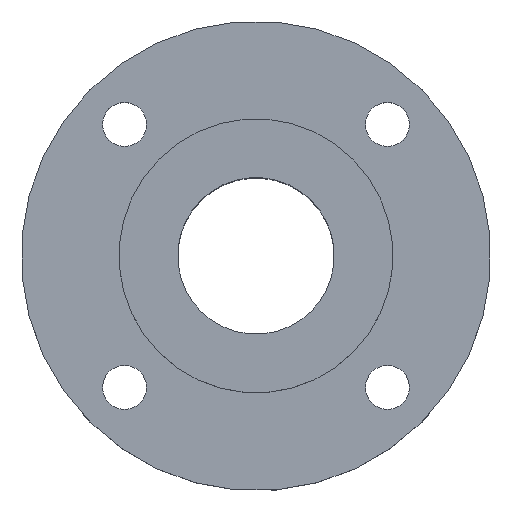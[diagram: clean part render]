
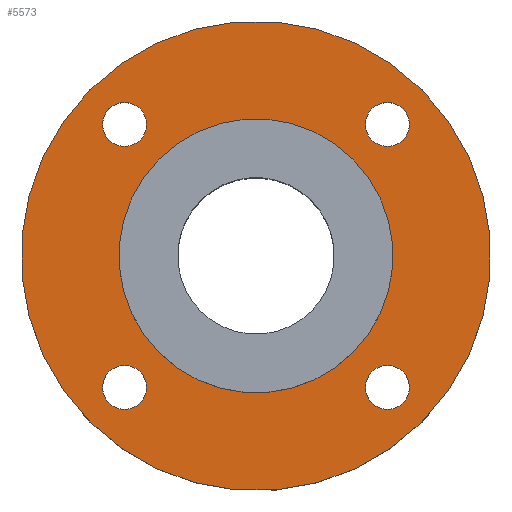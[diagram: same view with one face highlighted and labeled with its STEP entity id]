
A CAD part, top view. The second image highlights one B-rep face of the part: STEP entity #5573.
In plain terms, the highlighted planar face has unit normal (0, 0, 1).
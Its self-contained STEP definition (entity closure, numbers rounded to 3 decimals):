
#114=CIRCLE('',#5928,14.);
#118=CIRCLE('',#5936,24.);
#119=CIRCLE('',#5938,2.25);
#120=CIRCLE('',#5939,2.25);
#121=CIRCLE('',#5940,2.25);
#122=CIRCLE('',#5941,2.25);
#516=ORIENTED_EDGE('',*,*,#2114,.F.);
#517=ORIENTED_EDGE('',*,*,#2115,.F.);
#518=ORIENTED_EDGE('',*,*,#2116,.F.);
#519=ORIENTED_EDGE('',*,*,#2117,.F.);
#520=ORIENTED_EDGE('',*,*,#2109,.T.);
#521=ORIENTED_EDGE('',*,*,#2113,.T.);
#2109=EDGE_CURVE('',#2911,#2911,#114,.F.);
#2113=EDGE_CURVE('',#2915,#2915,#118,.T.);
#2114=EDGE_CURVE('',#2916,#2916,#119,.T.);
#2115=EDGE_CURVE('',#2917,#2917,#120,.T.);
#2116=EDGE_CURVE('',#2918,#2918,#121,.T.);
#2117=EDGE_CURVE('',#2919,#2919,#122,.T.);
#2911=VERTEX_POINT('',#8830);
#2915=VERTEX_POINT('',#8842);
#2916=VERTEX_POINT('',#8845);
#2917=VERTEX_POINT('',#8847);
#2918=VERTEX_POINT('',#8849);
#2919=VERTEX_POINT('',#8851);
#4562=EDGE_LOOP('',(#516));
#4563=EDGE_LOOP('',(#517));
#4564=EDGE_LOOP('',(#518));
#4565=EDGE_LOOP('',(#519));
#4566=EDGE_LOOP('',(#520));
#4567=EDGE_LOOP('',(#521));
#4968=FACE_BOUND('',#4562,.T.);
#4969=FACE_BOUND('',#4563,.T.);
#4970=FACE_BOUND('',#4564,.T.);
#4971=FACE_BOUND('',#4565,.T.);
#4972=FACE_BOUND('',#4566,.T.);
#4973=FACE_BOUND('',#4567,.T.);
#5317=PLANE('',#5937);
#5573=ADVANCED_FACE('',(#4968,#4969,#4970,#4971,#4972,#4973),#5317,.T.);
#5928=AXIS2_PLACEMENT_3D('',#8829,#6442,#6443);
#5936=AXIS2_PLACEMENT_3D('',#8841,#6458,#6459);
#5937=AXIS2_PLACEMENT_3D('',#8843,#6460,#6461);
#5938=AXIS2_PLACEMENT_3D('',#8844,#6462,#6463);
#5939=AXIS2_PLACEMENT_3D('',#8846,#6464,#6465);
#5940=AXIS2_PLACEMENT_3D('',#8848,#6466,#6467);
#5941=AXIS2_PLACEMENT_3D('',#8850,#6468,#6469);
#6442=DIRECTION('',(0.,0.,1.));
#6443=DIRECTION('',(0.707,-0.707,0.));
#6458=DIRECTION('',(0.,0.,1.));
#6459=DIRECTION('',(0.707,-0.707,0.));
#6460=DIRECTION('',(0.,0.,1.));
#6461=DIRECTION('',(0.707,-0.707,0.));
#6462=DIRECTION('',(0.,0.,1.));
#6463=DIRECTION('',(0.707,-0.707,0.));
#6464=DIRECTION('',(0.,0.,1.));
#6465=DIRECTION('',(0.707,-0.707,0.));
#6466=DIRECTION('',(0.,0.,1.));
#6467=DIRECTION('',(0.707,-0.707,0.));
#6468=DIRECTION('',(0.,0.,1.));
#6469=DIRECTION('',(0.707,-0.707,0.));
#8829=CARTESIAN_POINT('',(0.,0.,0.));
#8830=CARTESIAN_POINT('',(9.899,-9.899,0.));
#8841=CARTESIAN_POINT('',(0.,0.,0.));
#8842=CARTESIAN_POINT('',(16.971,-16.971,0.));
#8843=CARTESIAN_POINT('',(0.,0.,0.));
#8844=CARTESIAN_POINT('',(13.435,13.435,0.));
#8845=CARTESIAN_POINT('',(15.026,11.844,0.));
#8846=CARTESIAN_POINT('',(-13.435,13.435,0.));
#8847=CARTESIAN_POINT('',(-11.844,11.844,0.));
#8848=CARTESIAN_POINT('',(-13.435,-13.435,0.));
#8849=CARTESIAN_POINT('',(-11.844,-15.026,0.));
#8850=CARTESIAN_POINT('',(13.435,-13.435,0.));
#8851=CARTESIAN_POINT('',(15.026,-15.026,0.));
